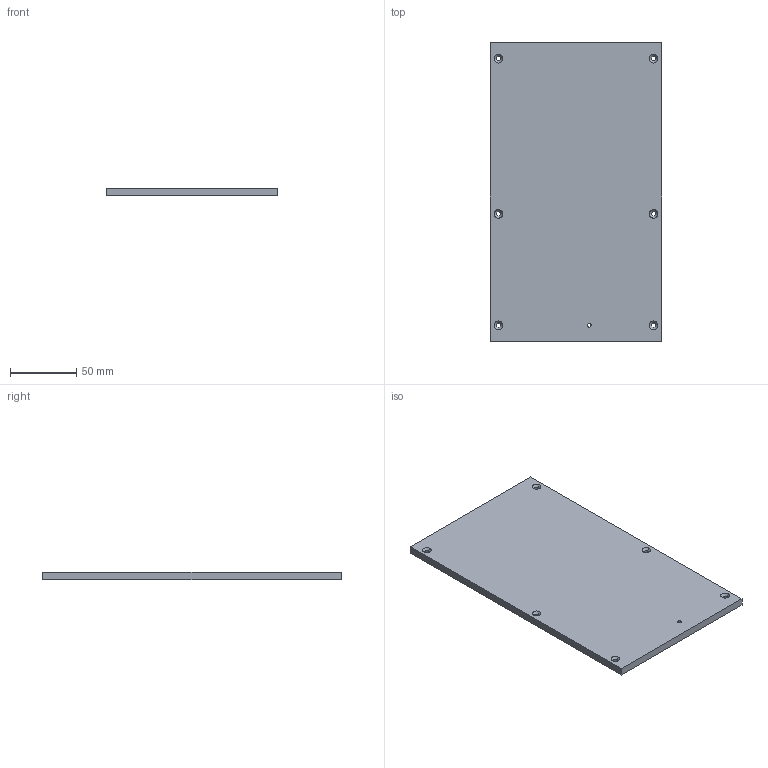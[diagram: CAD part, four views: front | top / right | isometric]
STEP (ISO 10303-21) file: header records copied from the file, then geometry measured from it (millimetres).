
FILE_DESCRIPTION (( 'STEP AP214' ), '1' );
FILE_NAME ('Jetson_node_right.STEP', '2015-02-27T02:19:13', ( '' ), ( '' ), '', '', '' );
FILE_SCHEMA (( '' ));
Length unit declared in the file: millimetre
Products named in the file (1): Jetson_node_right
Bounding box: 129 x 225 x 5.88 mm (x, y, z)
Volume: 170034.1 mm3; surface area: 62481.1 mm2
Topology: 1 solids, 1 shells, 32 faces, 78 edges, 48 vertices
Faces by surface type: cylinder 14, cone 12, plane 6
Entity records: 997 total; most frequent: DIRECTION 184, CARTESIAN_POINT 159, ORIENTED_EDGE 156, EDGE_CURVE 78, AXIS2_PLACEMENT_3D 73, VERTEX_POINT 48, EDGE_LOOP 46, CIRCLE 40
